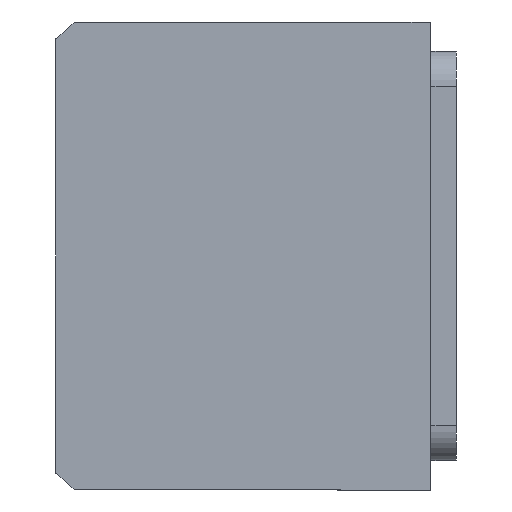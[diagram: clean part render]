
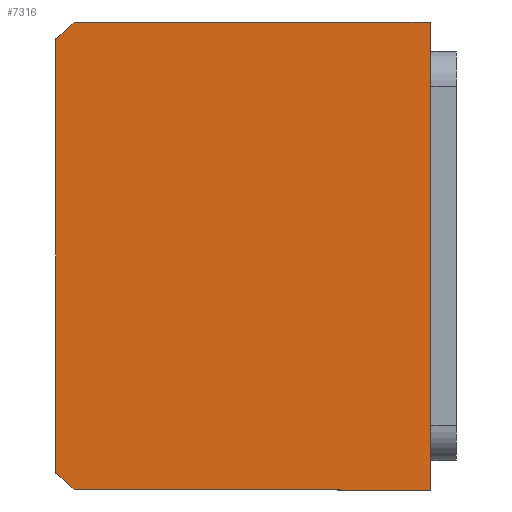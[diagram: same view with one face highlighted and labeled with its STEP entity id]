
A CAD part, front view. The second image highlights one B-rep face of the part: STEP entity #7316.
In plain terms, the highlighted planar face has unit normal (0, -1, 0) as drawn and (0, 0, -1) by its records, which use the part's own axes.
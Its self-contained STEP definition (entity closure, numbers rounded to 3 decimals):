
#189 = CARTESIAN_POINT ( 'NONE',  ( 40., -11.507, 0. ) ) ;
#429 = VERTEX_POINT ( 'NONE', #1981 ) ;
#667 = DIRECTION ( 'NONE',  ( 1., 0., 0. ) ) ;
#767 = LINE ( 'NONE', #5093, #8195 ) ;
#1157 = EDGE_CURVE ( 'NONE', #429, #6393, #5194, .T. ) ;
#1268 = DIRECTION ( 'NONE',  ( 0., 1., 0. ) ) ;
#1365 = ORIENTED_EDGE ( 'NONE', *, *, #6447, .F. ) ;
#1699 = CARTESIAN_POINT ( 'NONE',  ( 0., 0., 0. ) ) ;
#1798 = VECTOR ( 'NONE', #7447, 1000. ) ;
#1981 = CARTESIAN_POINT ( 'NONE',  ( -40., -72.145, 0. ) ) ;
#1991 = DIRECTION ( 'NONE',  ( 0., 0., 1. ) ) ;
#2020 = CARTESIAN_POINT ( 'NONE',  ( -40., -11.507, 0. ) ) ;
#2348 = VERTEX_POINT ( 'NONE', #7771 ) ;
#3121 = ORIENTED_EDGE ( 'NONE', *, *, #7980, .F. ) ;
#3249 = CARTESIAN_POINT ( 'NONE',  ( 37.094, -75.507, 0. ) ) ;
#3958 = CARTESIAN_POINT ( 'NONE',  ( 0., -40.507, 0. ) ) ;
#3972 = AXIS2_PLACEMENT_3D ( 'NONE', #3958, #11375, #5009 ) ;
#4429 = EDGE_CURVE ( 'NONE', #7846, #13194, #4605, .T. ) ;
#4605 = LINE ( 'NONE', #10622, #1798 ) ;
#4785 = ORIENTED_EDGE ( 'NONE', *, *, #4429, .F. ) ;
#5009 = DIRECTION ( 'NONE',  ( 1., 0., 0. ) ) ;
#5051 = VECTOR ( 'NONE', #8335, 1000. ) ;
#5093 = CARTESIAN_POINT ( 'NONE',  ( -40., -75.507, 0. ) ) ;
#5194 = CIRCLE ( 'NONE', #10964, 51. ) ;
#6393 = VERTEX_POINT ( 'NONE', #6426 ) ;
#6426 = CARTESIAN_POINT ( 'NONE',  ( -37.094, -75.507, 0. ) ) ;
#6447 = EDGE_CURVE ( 'NONE', #2348, #7846, #13684, .T. ) ;
#6636 = CARTESIAN_POINT ( 'NONE',  ( -40., -11.507, 0. ) ) ;
#6983 = DIRECTION ( 'NONE',  ( 0., 0., 1. ) ) ;
#6995 = CARTESIAN_POINT ( 'NONE',  ( 40., -11.507, 0. ) ) ;
#7316 = ADVANCED_FACE ( 'NONE', ( #7691 ), #13351, .F. ) ;
#7447 = DIRECTION ( 'NONE',  ( -1., 0., 0. ) ) ;
#7547 = EDGE_LOOP ( 'NONE', ( #13704, #9936, #4785, #1365, #9882, #3121 ) ) ;
#7691 = FACE_OUTER_BOUND ( 'NONE', #7547, .T. ) ;
#7707 = VECTOR ( 'NONE', #1268, 1000. ) ;
#7771 = CARTESIAN_POINT ( 'NONE',  ( 40., -72.145, 0. ) ) ;
#7846 = VERTEX_POINT ( 'NONE', #6995 ) ;
#7980 = EDGE_CURVE ( 'NONE', #6393, #13073, #767, .T. ) ;
#8042 = EDGE_CURVE ( 'NONE', #13194, #429, #10356, .T. ) ;
#8195 = VECTOR ( 'NONE', #12520, 1000. ) ;
#8302 = CARTESIAN_POINT ( 'NONE',  ( 0., -40.507, 0. ) ) ;
#8335 = DIRECTION ( 'NONE',  ( 0., -1., 0. ) ) ;
#9383 = DIRECTION ( 'NONE',  ( 1., 0., 0. ) ) ;
#9882 = ORIENTED_EDGE ( 'NONE', *, *, #10855, .F. ) ;
#9936 = ORIENTED_EDGE ( 'NONE', *, *, #8042, .F. ) ;
#10356 = LINE ( 'NONE', #2020, #5051 ) ;
#10622 = CARTESIAN_POINT ( 'NONE',  ( -40., -11.507, 0. ) ) ;
#10855 = EDGE_CURVE ( 'NONE', #13073, #2348, #13480, .T. ) ;
#10964 = AXIS2_PLACEMENT_3D ( 'NONE', #8302, #1991, #9383 ) ;
#11375 = DIRECTION ( 'NONE',  ( 0., 0., 1. ) ) ;
#11510 = AXIS2_PLACEMENT_3D ( 'NONE', #1699, #6983, #667 ) ;
#12520 = DIRECTION ( 'NONE',  ( 1., 0., 0. ) ) ;
#13073 = VERTEX_POINT ( 'NONE', #3249 ) ;
#13194 = VERTEX_POINT ( 'NONE', #6636 ) ;
#13351 = PLANE ( 'NONE',  #11510 ) ;
#13480 = CIRCLE ( 'NONE', #3972, 51. ) ;
#13684 = LINE ( 'NONE', #189, #7707 ) ;
#13704 = ORIENTED_EDGE ( 'NONE', *, *, #1157, .F. ) ;
